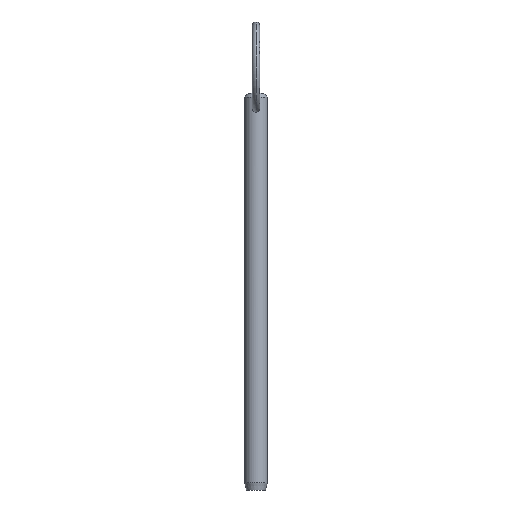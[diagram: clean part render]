
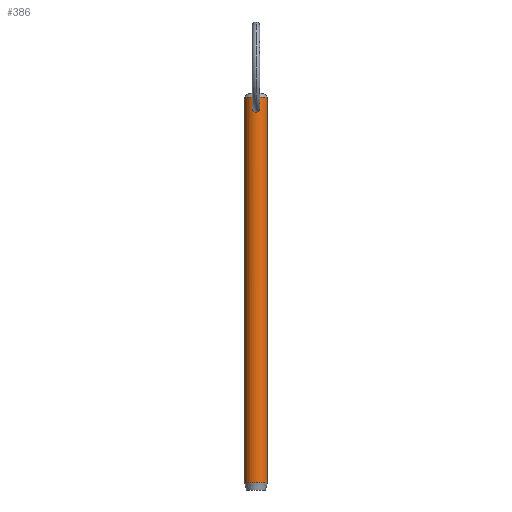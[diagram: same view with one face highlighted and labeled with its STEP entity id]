
A CAD part, front view. The second image highlights one B-rep face of the part: STEP entity #386.
In plain terms, the highlighted cylindrical face has radius 3.175 mm (diameter 6.35 mm), a partial arc.
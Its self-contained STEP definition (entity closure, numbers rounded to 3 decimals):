
#23 = EDGE_CURVE ( 'NONE', #314, #425, #288, .T. ) ;
#25 = CARTESIAN_POINT ( 'NONE',  ( -0.264, -3.165, 98.944 ) ) ;
#27 = CARTESIAN_POINT ( 'NONE',  ( -0.269, -3.166, 96.929 ) ) ;
#28 = CARTESIAN_POINT ( 'NONE',  ( -3.175, 0., -5.92 ) ) ;
#29 = CARTESIAN_POINT ( 'NONE',  ( -0.983, -3.02, 97.659 ) ) ;
#61 = CARTESIAN_POINT ( 'NONE',  ( 0., -3.175, 98.982 ) ) ;
#63 = CARTESIAN_POINT ( 'NONE',  ( -0.888, -3.049, 97.409 ) ) ;
#66 = CYLINDRICAL_SURFACE ( 'NONE', #84, 3.175 ) ;
#69 = CARTESIAN_POINT ( 'NONE',  ( 0., -3.175, 96.903 ) ) ;
#72 = CARTESIAN_POINT ( 'NONE',  ( 0.628, -3.114, 97.104 ) ) ;
#74 = CARTESIAN_POINT ( 'NONE',  ( 0.982, -3.02, 97.658 ) ) ;
#77 = CARTESIAN_POINT ( 'NONE',  ( 1.004, -3.012, 97.793 ) ) ;
#84 = AXIS2_PLACEMENT_3D ( 'NONE', #348, #345, #132 ) ;
#101 = ORIENTED_EDGE ( 'NONE', *, *, #412, .T. ) ;
#102 = VERTEX_POINT ( 'NONE', #28 ) ;
#111 = CARTESIAN_POINT ( 'NONE',  ( -0.508, -3.136, 98.835 ) ) ;
#113 = EDGE_LOOP ( 'NONE', ( #365, #328 ) ) ;
#117 = CARTESIAN_POINT ( 'NONE',  ( 0.992, -3.016, 98.194 ) ) ;
#120 = CARTESIAN_POINT ( 'NONE',  ( 0.815, -3.07, 97.295 ) ) ;
#132 = DIRECTION ( 'NONE',  ( -1., 0., 0. ) ) ;
#141 = EDGE_CURVE ( 'NONE', #160, #438, #422, .T. ) ;
#145 = DIRECTION ( 'NONE',  ( 0., 0., 1. ) ) ;
#147 = ORIENTED_EDGE ( 'NONE', *, *, #167, .T. ) ;
#148 = CARTESIAN_POINT ( 'NONE',  ( -0.067, -3.175, 98.982 ) ) ;
#150 = CARTESIAN_POINT ( 'NONE',  ( -0.516, -3.135, 97.031 ) ) ;
#153 = DIRECTION ( 'NONE',  ( 0., 0., -1. ) ) ;
#160 = VERTEX_POINT ( 'NONE', #69 ) ;
#167 = EDGE_CURVE ( 'NONE', #314, #207, #177, .T. ) ;
#168 = B_SPLINE_CURVE_WITH_KNOTS ( 'NONE', 3,
 ( #318, #226, #360, #337, #402, #232, #117, #77, #74, #233, #120, #72, #332, #291, #440, #484 ),
 .UNSPECIFIED., .F., .F.,
 ( 4, 2, 2, 2, 2, 2, 2, 4 ),
 ( 0.003, 0.003, 0.004, 0.004, 0.005, 0.005, 0.006, 0.006 ),
 .UNSPECIFIED. ) ;
#176 = FACE_BOUND ( 'NONE', #113, .T. ) ;
#177 = CIRCLE ( 'NONE', #455, 3.175 ) ;
#178 = CARTESIAN_POINT ( 'NONE',  ( 0., 0., -5.92 ) ) ;
#182 = CARTESIAN_POINT ( 'NONE',  ( 0., -3.175, 98.982 ) ) ;
#188 = EDGE_CURVE ( 'NONE', #438, #160, #168, .T. ) ;
#193 = CARTESIAN_POINT ( 'NONE',  ( -0.615, -3.116, 98.753 ) ) ;
#201 = DIRECTION ( 'NONE',  ( 0., 0., -1. ) ) ;
#204 = ORIENTED_EDGE ( 'NONE', *, *, #23, .F. ) ;
#207 = VERTEX_POINT ( 'NONE', #329 ) ;
#221 = CARTESIAN_POINT ( 'NONE',  ( -1.004, -3.012, 97.795 ) ) ;
#226 = CARTESIAN_POINT ( 'NONE',  ( 0.134, -3.175, 98.982 ) ) ;
#227 = CARTESIAN_POINT ( 'NONE',  ( -0.134, -3.175, 96.903 ) ) ;
#229 = EDGE_CURVE ( 'NONE', #207, #102, #458, .T. ) ;
#232 = CARTESIAN_POINT ( 'NONE',  ( 0.884, -3.055, 98.457 ) ) ;
#233 = CARTESIAN_POINT ( 'NONE',  ( 0.888, -3.049, 97.409 ) ) ;
#242 = ORIENTED_EDGE ( 'NONE', *, *, #229, .T. ) ;
#252 = CARTESIAN_POINT ( 'NONE',  ( -0.328, -3.159, 98.921 ) ) ;
#272 = CIRCLE ( 'NONE', #419, 3.175 ) ;
#284 = CARTESIAN_POINT ( 'NONE',  ( -0.133, -3.173, 98.974 ) ) ;
#286 = CARTESIAN_POINT ( 'NONE',  ( -0.629, -3.114, 97.105 ) ) ;
#288 = LINE ( 'NONE', #397, #481 ) ;
#291 = CARTESIAN_POINT ( 'NONE',  ( 0.268, -3.166, 96.929 ) ) ;
#294 = CARTESIAN_POINT ( 'NONE',  ( -3.175, 0., 96.5 ) ) ;
#295 = DIRECTION ( 'NONE',  ( 1., 0., 0. ) ) ;
#305 = CARTESIAN_POINT ( 'NONE',  ( 3.175, 0., -5.92 ) ) ;
#307 = EDGE_LOOP ( 'NONE', ( #204, #147, #242, #101 ) ) ;
#312 = FACE_OUTER_BOUND ( 'NONE', #307, .T. ) ;
#314 = VERTEX_POINT ( 'NONE', #407 ) ;
#318 = CARTESIAN_POINT ( 'NONE',  ( 0., -3.175, 98.982 ) ) ;
#320 = CARTESIAN_POINT ( 'NONE',  ( -0.991, -3.016, 98.196 ) ) ;
#323 = CARTESIAN_POINT ( 'NONE',  ( -0.882, -3.055, 98.46 ) ) ;
#328 = ORIENTED_EDGE ( 'NONE', *, *, #141, .T. ) ;
#329 = CARTESIAN_POINT ( 'NONE',  ( -3.175, 0., 101.08 ) ) ;
#332 = CARTESIAN_POINT ( 'NONE',  ( 0.515, -3.135, 97.03 ) ) ;
#335 = DIRECTION ( 'NONE',  ( 0., 0., -1. ) ) ;
#337 = CARTESIAN_POINT ( 'NONE',  ( 0.51, -3.136, 98.834 ) ) ;
#345 = DIRECTION ( 'NONE',  ( 0., 0., -1. ) ) ;
#348 = CARTESIAN_POINT ( 'NONE',  ( 0., 0., 96.5 ) ) ;
#351 = DIRECTION ( 'NONE',  ( -1., 0., 0. ) ) ;
#360 = CARTESIAN_POINT ( 'NONE',  ( 0.269, -3.166, 98.95 ) ) ;
#365 = ORIENTED_EDGE ( 'NONE', *, *, #188, .T. ) ;
#386 = ADVANCED_FACE ( 'NONE', ( #312, #176 ), #66, .T. ) ;
#397 = CARTESIAN_POINT ( 'NONE',  ( 3.175, 0., 96.5 ) ) ;
#402 = CARTESIAN_POINT ( 'NONE',  ( 0.617, -3.116, 98.751 ) ) ;
#407 = CARTESIAN_POINT ( 'NONE',  ( 3.175, 0., 101.08 ) ) ;
#412 = EDGE_CURVE ( 'NONE', #102, #425, #272, .T. ) ;
#419 = AXIS2_PLACEMENT_3D ( 'NONE', #178, #145, #351 ) ;
#422 = B_SPLINE_CURVE_WITH_KNOTS ( 'NONE', 3,
 ( #434, #227, #27, #150, #286, #430, #63, #29, #221, #320, #323, #193, #111, #252, #25, #284, #148, #61 ),
 .UNSPECIFIED., .F., .F.,
 ( 4, 2, 2, 2, 2, 2, 2, 2, 4 ),
 ( 0.006, 0.006, 0.007, 0.007, 0.008, 0.008, 0.009, 0.009, 0.009 ),
 .UNSPECIFIED. ) ;
#425 = VERTEX_POINT ( 'NONE', #305 ) ;
#429 = VECTOR ( 'NONE', #153, 1000. ) ;
#430 = CARTESIAN_POINT ( 'NONE',  ( -0.815, -3.07, 97.295 ) ) ;
#434 = CARTESIAN_POINT ( 'NONE',  ( 0., -3.175, 96.903 ) ) ;
#438 = VERTEX_POINT ( 'NONE', #182 ) ;
#440 = CARTESIAN_POINT ( 'NONE',  ( 0.134, -3.175, 96.903 ) ) ;
#443 = CARTESIAN_POINT ( 'NONE',  ( 0., 0., 101.08 ) ) ;
#455 = AXIS2_PLACEMENT_3D ( 'NONE', #443, #201, #295 ) ;
#458 = LINE ( 'NONE', #294, #429 ) ;
#481 = VECTOR ( 'NONE', #335, 1000. ) ;
#484 = CARTESIAN_POINT ( 'NONE',  ( 0., -3.175, 96.903 ) ) ;
